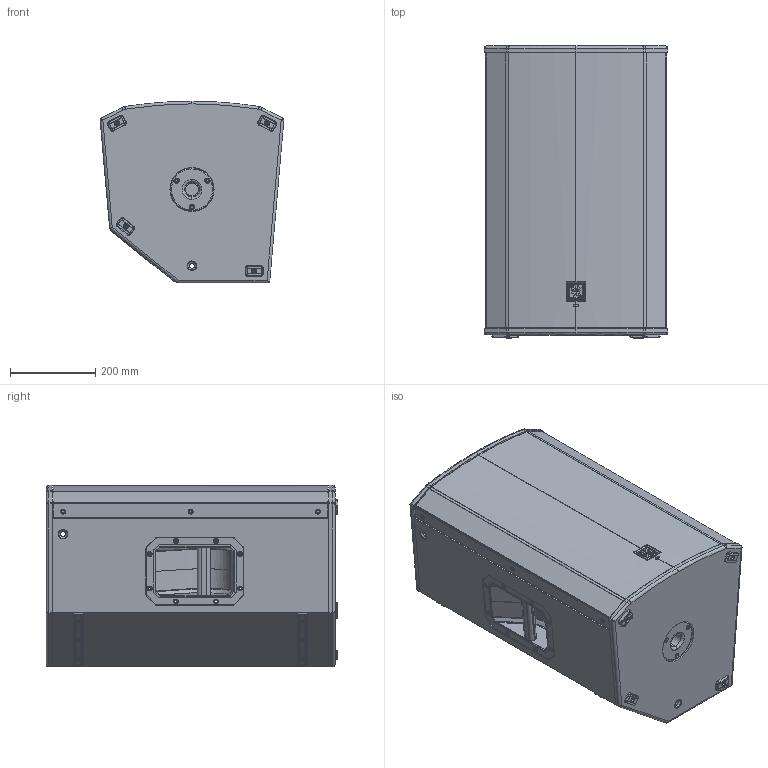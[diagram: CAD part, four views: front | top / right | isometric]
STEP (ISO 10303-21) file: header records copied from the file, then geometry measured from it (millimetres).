
FILE_DESCRIPTION (( 'STEP AP214' ), '1' );
FILE_NAME ('F01U303365 simplified.STEP', '2015-04-17T20:57:11', ( '' ), ( '' ), 'SwSTEP 2.0', 'SolidWorks 2014', '' );
FILE_SCHEMA (( 'AUTOMOTIVE_DESIGN' ));
Length unit declared in the file: millimetre
Products named in the file (16): F01U303365 simplified; F01U306213; F01U167117_96415A125; F01U273562; F01U306177_FORMED WITH LOGO; F01U270364; F01U200391; F01U275133; F01U302493; F01U304175; F01U304175 LEFT SIDE; F01U304175 RIGHT SIDE; F01U304175 MONITOR PANEL; F01U304175 REAR; F01U304175 TOP; F01U304175 BOTTOM
Assembly tree (21 placements, depth 3):
  F01U303365 simplified
    F01U304175
      F01U304175 BOTTOM
      F01U304175 TOP
      F01U304175 REAR
      F01U304175 MONITOR PANEL
      F01U304175 RIGHT SIDE
      F01U304175 LEFT SIDE
    F01U302493  x2
    F01U275133  x2
    F01U200391
    F01U270364  x4
    F01U306213
      F01U306177_FORMED WITH LOGO
      F01U273562
      F01U167117_96415A125  x2
Bounding box: 431.01 x 684.52 x 426.05 mm (x, y, z)
Volume: 14068301.9 mm3; surface area: 3082153.8 mm2
Topology: 29 solids, 29 shells, 3086 faces, 7828 edges, 4946 vertices
Faces by surface type: plane 1183, bspline 977, cylinder 700, cone 226
Entity records: 99263 total; most frequent: CARTESIAN_POINT 39143, ORIENTED_EDGE 8970, DIRECTION 7266, EDGE_CURVE 4485, VERTEX_POINT 2838, AXIS2_PLACEMENT_3D 2560, LINE 2146, VECTOR 2146
